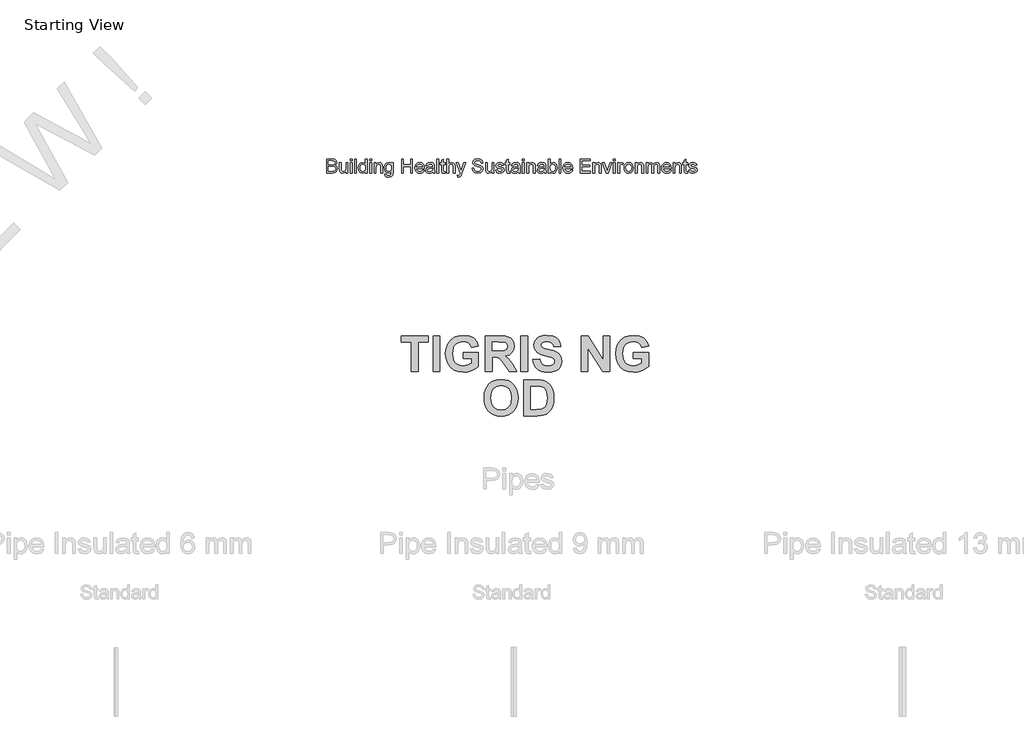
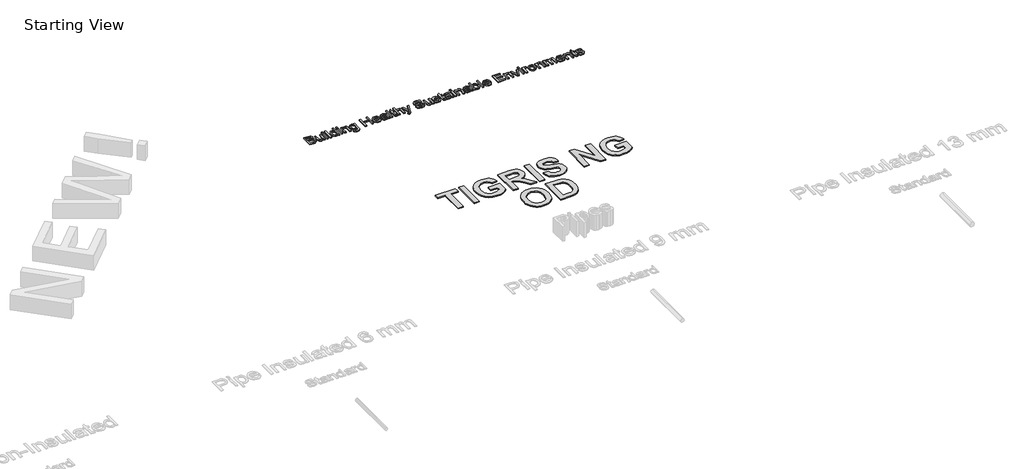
# One storey, part 3 of 3: 2 proxies.
"""IFC4 building model written with IfcOpenShell, lengths in millimetres."""

from ifc_helpers import new_model, si_unit, origin, origin_with_axes, place, context, project, spatial, polyline, outline, extrude, element, save

model = new_model("IFC4")

# Units and contexts
model_context = context("Model", 3, world=origin())
ifc_project = project(units=[si_unit("LENGTHUNIT", "METRE", prefix="MILLI")], contexts=[model_context])

# Site, building, storey
site = spatial("IfcSite", under=ifc_project)
building = spatial("IfcBuilding", under=site)
storey = spatial("IfcBuildingStorey", under=building, Name="Starting View", Elevation=0.0)

# Proxies
placement = place(None, origin())
element("IfcBuildingElementProxy", 1, Name="Arial 100", ObjectType="Arial 100", at=placement, inside=storey, context=model_context, shape_type="SweptSolid", body=[
    extrude(outline(polyline([(18641.6273877, 13515.8670476), (18641.6273877, 13616.3233577), (18679.9606916, 13616.3233577), (18698.7349361, 13613.368039), (18709.8204469, 13604.2813537), (18713.8303606, 13591.4300094), (18710.458109, 13579.6945737), (18700.2677777, 13570.8040922), (18712.6408755, 13561.435364), (18716.9696203, 13545.812642), (18714.0143016, 13532.3113728), (18706.6934499, 13522.6973899), (18695.7673546, 13517.596093), (18679.666386, 13515.8670476), (18641.6273877, 13515.8670476)]), holes=[polyline([(18654.1844264, 13528.4240863), (18679.9361661, 13528.4240863), (18689.2558433, 13528.9145957), (18697.1407808, 13531.6491852), (18702.3647051, 13537.2287288), (18704.4125815, 13545.6900146), (18702.0090858, 13555.4511503), (18694.2222503, 13561.2759485), (18678.7098928, 13562.955943), (18654.1844264, 13562.955943), (18654.1844264, 13528.4240863)]), polyline([(18654.1844264, 13575.5129817), (18677.1157375, 13575.5129817), (18690.5066421, 13576.5921022), (18698.5632578, 13581.2396781), (18701.2733218, 13589.4189211), (18698.7471988, 13597.6104269), (18691.5121862, 13602.4542065), (18675.3744294, 13603.766319), (18654.1844264, 13603.766319), (18654.1844264, 13575.5129817)])]), origin_with_axes(), (0.0, 0.0, 1.0), 10.0),
    extrude(outline(polyline([(18779.7548141, 13515.8670476), (18779.7548141, 13528.5467137), (18769.9201021, 13517.8597417), (18757.0932832, 13514.2974177), (18745.2842712, 13516.7990153), (18737.1418164, 13523.0775347), (18733.4016827, 13532.3236355), (18732.6659188, 13543.9977575), (18732.6659188, 13589.6396503), (18745.2229575, 13589.6396503), (18745.2229575, 13549.9083949), (18745.983247, 13537.1061014), (18750.9496539, 13529.589046), (18760.3061193, 13526.8544565), (18770.7907562, 13529.6503597), (18777.7192004, 13537.265517), (18779.7548141, 13551.2572955), (18779.7548141, 13589.6396503), (18792.3118529, 13589.6396503), (18792.3118529, 13515.8670476), (18779.7548141, 13515.8670476)])), origin_with_axes(), (0.0, 0.0, 1.0), 10.0),
    extrude(outline(polyline([(18809.5777812, 13603.766319), (18809.5777812, 13616.3233577), (18822.13482, 13616.3233577), (18822.13482, 13603.766319), (18809.5777812, 13603.766319)])), origin_with_axes(), (0.0, 0.0, 1.0), 10.0),
    extrude(outline(polyline([(18809.5777812, 13515.8670476), (18809.5777812, 13589.6396503), (18822.13482, 13589.6396503), (18822.13482, 13515.8670476), (18809.5777812, 13515.8670476)])), origin_with_axes(), (0.0, 0.0, 1.0), 10.0),
    extrude(outline(polyline([(18840.9703781, 13515.8670476), (18840.9703781, 13616.3233577), (18853.5274169, 13616.3233577), (18853.5274169, 13515.8670476), (18840.9703781, 13515.8670476)])), origin_with_axes(), (0.0, 0.0, 1.0), 10.0),
    extrude(outline(polyline([(18917.8822406, 13515.8670476), (18917.8822406, 13527.7128478), (18909.5742389, 13517.6512752), (18898.0901893, 13514.2974177), (18882.5410436, 13519.1534601), (18871.5536347, 13532.7037802), (18867.6540855, 13552.6797726), (18871.2470663, 13572.6680276), (18882.0137461, 13586.4268142), (18898.0411383, 13591.2092802), (18909.6171584, 13587.7879776), (18917.8822406, 13578.8974961), (18917.8822406, 13616.3233577), (18930.4392794, 13616.3233577), (18930.4392794, 13515.8670476), (18917.8822406, 13515.8670476)]), holes=[polyline([(18880.2111243, 13552.7288235), (18881.62747, 13541.3704669), (18885.876507, 13533.2923914), (18892.0507932, 13528.4639402), (18899.2428862, 13526.8544565), (18906.4319135, 13528.3903638), (18912.4498498, 13532.9980858), (18916.5241429, 13540.7634616), (18917.8822406, 13551.7723303), (18916.4996174, 13563.8082029), (18912.3517479, 13572.1529928), (18906.1805275, 13577.0274293), (18898.7278514, 13578.6522414), (18891.462182, 13577.0918086), (18885.508625, 13572.4105102), (18881.5354995, 13564.369223), (18880.2111243, 13552.7288235)])]), origin_with_axes(), (0.0, 0.0, 1.0), 10.0),
    extrude(outline(polyline([(18949.2748375, 13603.766319), (18949.2748375, 13616.3233577), (18961.8318763, 13616.3233577), (18961.8318763, 13603.766319), (18949.2748375, 13603.766319)])), origin_with_axes(), (0.0, 0.0, 1.0), 10.0),
    extrude(outline(polyline([(18949.2748375, 13515.8670476), (18949.2748375, 13589.6396503), (18961.8318763, 13589.6396503), (18961.8318763, 13515.8670476), (18949.2748375, 13515.8670476)])), origin_with_axes(), (0.0, 0.0, 1.0), 10.0),
    extrude(outline(polyline([(18980.6674344, 13515.8670476), (18980.6674344, 13589.6396503), (18993.2244732, 13589.6396503), (18993.2244732, 13579.3389545), (19002.8261933, 13588.2416988), (19015.935055, 13591.2092802), (19027.793118, 13588.8180472), (19035.8865219, 13582.5395278), (19039.651181, 13573.3056898), (19040.3133686, 13561.1655839), (19040.3133686, 13515.8670476), (19027.7563298, 13515.8670476), (19027.7563298, 13559.4733267), (19026.3093273, 13570.583363), (19021.1957676, 13576.4572122), (19012.5750661, 13578.6522414), (18998.9511696, 13573.7226227), (18994.6561473, 13566.5795806), (18993.2244732, 13555.0096919), (18993.2244732, 13515.8670476), (18980.6674344, 13515.8670476)])), origin_with_axes(), (0.0, 0.0, 1.0), 10.0),
    extrude(outline(polyline([(19054.4400372, 13509.5885282), (19066.997076, 13508.0188983), (19071.0683034, 13501.3970224), (19083.2574602, 13498.6011193), (19096.1088045, 13501.7649044), (19102.2401711, 13510.6431232), (19103.0985624, 13525.2848266), (19094.2571318, 13518.2214923), (19083.4781894, 13515.8670476), (19070.5318088, 13518.6077684), (19060.8779721, 13526.829931), (19054.8722985, 13538.8841977), (19052.8704074, 13553.121231), (19056.4633882, 13572.5821885), (19066.8621859, 13586.3532378), (19082.8650527, 13591.2092802), (19094.0670594, 13588.462428), (19103.0985624, 13580.2218713), (19103.0985624, 13589.6396503), (19115.6556012, 13589.6396503), (19115.6556012, 13525.9470142), (19112.2220359, 13501.556438), (19101.3449916, 13490.2134098), (19083.0122055, 13486.0440805), (19071.3288865, 13487.5125428), (19062.1287709, 13491.9179297), (19056.2273306, 13499.2725039), (19054.4400372, 13509.5885282)]), holes=[polyline([(19065.4274461, 13553.9796223), (19066.7671497, 13542.4618501), (19070.7862605, 13534.5431902), (19076.8287223, 13529.9538623), (19084.2384788, 13528.4240863), (19091.593053, 13529.9446653), (19097.6661716, 13534.506402), (19101.7404647, 13542.3238944), (19103.0985624, 13553.6117403), (19101.7006108, 13564.4979817), (19097.5067561, 13572.3369338), (19091.3447327, 13577.0734145), (19084.0422751, 13578.6522414), (19076.8716419, 13577.09794), (19070.8598369, 13572.4350357), (19066.7855438, 13564.7125795), (19065.4274461, 13553.9796223)])]), origin_with_axes(), (0.0, 0.0, 1.0), 10.0),
    extrude(outline(polyline([(19175.3015353, 13515.8670476), (19175.3015353, 13616.3233577), (19187.8585741, 13616.3233577), (19187.8585741, 13575.5129817), (19241.2259889, 13575.5129817), (19241.2259889, 13616.3233577), (19253.7830277, 13616.3233577), (19253.7830277, 13515.8670476), (19241.2259889, 13515.8670476), (19241.2259889, 13562.955943), (19187.8585741, 13562.955943), (19187.8585741, 13515.8670476), (19175.3015353, 13515.8670476)])), origin_with_axes(), (0.0, 0.0, 1.0), 10.0),
    extrude(outline(polyline([(19325.8388478, 13537.8418654), (19338.1506319, 13536.2722356), (19333.7145882, 13526.9954779), (19326.6359254, 13520.0609023), (19317.0740592, 13515.7382889), (19305.1884051, 13514.2974177), (19290.4547312, 13516.7836869), (19279.1178344, 13524.2424943), (19271.8889532, 13536.1894621), (19269.4793261, 13552.1402123), (19271.9134786, 13568.627457), (19279.2159363, 13580.9576353), (19290.3995489, 13588.646369), (19304.4771666, 13591.2092802), (19318.1163916, 13588.6525003), (19329.0148957, 13580.9821607), (19336.1610034, 13568.676508), (19338.5430393, 13552.2137887), (19338.4694629, 13548.8292743), (19282.0363649, 13548.8292743), (19284.2099343, 13539.4298894), (19289.2591147, 13532.5198392), (19296.5462439, 13528.2708022), (19305.4336598, 13526.8544565), (19317.7454439, 13529.4786814), (19325.8388478, 13537.8418654)]), holes=[polyline([(19282.0363649, 13561.3863131), (19325.9860006, 13561.3863131), (19320.95828, 13572.7661295), (19313.6374283, 13577.1807134), (19304.4281157, 13578.6522414), (19288.9648091, 13573.9556146), (19284.0995697, 13568.4649758), (19282.0363649, 13561.3863131)])]), origin_with_axes(), (0.0, 0.0, 1.0), 10.0),
    extrude(outline(polyline([(19398.1889735, 13525.2848266), (19386.0120795, 13516.7744898), (19372.5598612, 13514.2974177), (19362.0660273, 13515.7873398), (19354.3251769, 13520.257106), (19349.551908, 13527.0445289), (19347.9608184, 13535.4874206), (19350.3643141, 13545.4202345), (19356.6796217, 13552.6307216), (19365.4720014, 13556.751), (19376.336783, 13558.6394609), (19398.1153971, 13562.955943), (19398.1889735, 13565.7518461), (19394.7308827, 13575.0224724), (19380.8494688, 13578.6522414), (19368.1452772, 13576.236483), (19362.087487, 13567.6648325), (19349.5304483, 13569.2344623), (19354.9628391, 13581.4971955), (19365.9011971, 13588.6831572), (19382.4681496, 13591.2092802), (19397.6862014, 13588.9774627), (19406.2823774, 13583.3733937), (19410.1328756, 13574.8507941), (19410.7460123, 13563.8633852), (19410.7460123, 13548.2406631), (19411.3836744, 13526.4252608), (19413.885272, 13515.8670476), (19401.3282332, 13515.8670476), (19398.1889735, 13525.2848266)]), holes=[polyline([(19398.1889735, 13550.3989042), (19377.9309383, 13546.548406), (19367.1274704, 13544.5127923), (19362.2346398, 13541.2018543), (19360.5178572, 13536.3703374), (19364.2579908, 13529.5767833), (19375.233137, 13526.8544565), (19387.9373286, 13529.8588261), (19396.1288343, 13537.1306269), (19398.1153971, 13546.8427116), (19398.1889735, 13550.3989042)])]), origin_with_axes(), (0.0, 0.0, 1.0), 10.0),
    extrude(outline(polyline([(19428.0119406, 13515.8670476), (19428.0119406, 13616.3233577), (19440.5689793, 13616.3233577), (19440.5689793, 13515.8670476), (19428.0119406, 13515.8670476)])), origin_with_axes(), (0.0, 0.0, 1.0), 10.0),
    extrude(outline(polyline([(19486.0882449, 13526.3394217), (19487.6578747, 13515.4991656), (19478.2646211, 13514.2974177), (19467.743196, 13516.3820824), (19462.4947463, 13521.8512614), (19460.9741673, 13536.1005573), (19460.9741673, 13577.0826116), (19451.5563883, 13577.0826116), (19451.5563883, 13589.6396503), (19460.9741673, 13589.6396503), (19460.9741673, 13607.5677662), (19473.5312061, 13614.9499316), (19473.5312061, 13589.6396503), (19486.0882449, 13589.6396503), (19486.0882449, 13577.0826116), (19473.5312061, 13577.0826116), (19473.5312061, 13536.4684393), (19474.1933937, 13529.9937162), (19476.339372, 13527.7005851), (19480.6190659, 13526.8544565), (19486.0882449, 13526.3394217)])), origin_with_axes(), (0.0, 0.0, 1.0), 10.0),
    extrude(outline(polyline([(19498.6452836, 13515.8670476), (19498.6452836, 13616.3233577), (19511.2023224, 13616.3233577), (19511.2023224, 13579.3880054), (19520.9941149, 13588.2539615), (19533.0545129, 13591.2092802), (19547.1566561, 13587.9841814), (19555.7160438, 13579.0691743), (19558.2912178, 13562.5635355), (19558.2912178, 13515.8670476), (19545.734179, 13515.8670476), (19545.734179, 13561.2636858), (19541.736528, 13574.5074376), (19530.4057626, 13578.6522414), (19520.1173294, 13575.8563383), (19513.2501989, 13568.2779692), (19511.2023224, 13555.0587428), (19511.2023224, 13515.8670476), (19498.6452836, 13515.8670476)])), origin_with_axes(), (0.0, 0.0, 1.0), 10.0),
    extrude(outline(polyline([(19575.5571461, 13487.6137103), (19573.9875163, 13499.7047653), (19580.3641375, 13498.6011193), (19586.3238258, 13499.9868081), (19589.9781203, 13503.8495691), (19593.4116856, 13513.0956699), (19594.3927043, 13516.1368277), (19567.7089969, 13589.6396503), (19580.9527487, 13589.6396503), (19595.1039428, 13548.6821215), (19600.0335615, 13532.29911), (19604.9631802, 13546.7691352), (19619.5067818, 13589.6396503), (19632.6524318, 13589.6396503), (19606.9742685, 13514.101214), (19600.3033416, 13497.7182025), (19593.0192781, 13488.8645091), (19583.2336171, 13486.0440805), (19575.5571461, 13487.6137103)])), origin_with_axes(), (0.0, 0.0, 1.0), 10.0),
    extrude(outline(polyline([(19679.1527159, 13550.3989042), (19691.7097547, 13550.3989042), (19695.7564567, 13537.8296027), (19705.6402196, 13529.8833516), (19720.6988559, 13526.8544565), (19733.8199804, 13529.1475876), (19742.293529, 13535.4506324), (19745.0771695, 13543.8751301), (19742.9925048, 13551.7110166), (19734.4576426, 13557.4131876), (19716.1739074, 13562.2079162), (19696.4922206, 13568.4005965), (19685.8113801, 13577.7447992), (19682.2919756, 13590.2282615), (19686.6452459, 13604.4407693), (19699.3617002, 13614.471685), (19717.9765292, 13617.8929876), (19737.8421569, 13614.3122695), (19751.0859087, 13603.7908444), (19756.0645784, 13588.0700205), (19743.5075396, 13588.0700205), (19741.2021458, 13595.5625505), (19736.3951544, 13600.9704158), (19718.4670385, 13605.3359488), (19700.4898717, 13601.0194667), (19694.8490144, 13590.5961435), (19698.8466654, 13581.889603), (19719.3499553, 13574.8753196), (19741.5700278, 13568.5722747), (19753.7223964, 13558.3942062), (19757.6342082, 13544.1939612), (19753.1337852, 13529.1721131), (19740.1843389, 13518.2092296), (19721.1893653, 13514.2974177), (19698.7608263, 13518.5157979), (19684.572844, 13531.2199895), (19679.1527159, 13550.3989042)])), origin_with_axes(), (0.0, 0.0, 1.0), 10.0),
    extrude(outline(polyline([(19821.9890319, 13515.8670476), (19821.9890319, 13528.5467137), (19812.1543199, 13517.8597417), (19799.327501, 13514.2974177), (19787.518489, 13516.7990153), (19779.3760342, 13523.0775347), (19775.6359005, 13532.3236355), (19774.9001366, 13543.9977575), (19774.9001366, 13589.6396503), (19787.4571753, 13589.6396503), (19787.4571753, 13549.9083949), (19788.2174648, 13537.1061014), (19793.1838717, 13529.589046), (19802.5403371, 13526.8544565), (19813.024974, 13529.6503597), (19819.9534182, 13537.265517), (19821.9890319, 13551.2572955), (19821.9890319, 13589.6396503), (19834.5460707, 13589.6396503), (19834.5460707, 13515.8670476), (19821.9890319, 13515.8670476)])), origin_with_axes(), (0.0, 0.0, 1.0), 10.0),
    extrude(outline(polyline([(19847.1031095, 13537.8418654), (19859.6601482, 13539.4114953), (19865.4726838, 13530.0918181), (19878.790012, 13526.8544565), (19891.5923054, 13529.8220379), (19895.7616347, 13536.7872704), (19891.56778, 13542.4281276), (19878.6428592, 13546.0088457), (19859.7337246, 13552.152475), (19851.4809052, 13559.3261739), (19848.6727393, 13569.4551915), (19850.9290822, 13578.8116569), (19857.0849743, 13585.9608304), (19865.0680136, 13589.6764385), (19875.8714815, 13591.2092802), (19891.150847, 13588.7444708), (19900.8629317, 13582.073544), (19905.1794138, 13570.8040922), (19892.622375, 13569.2344623), (19887.9012227, 13576.1629066), (19876.8525002, 13578.6522414), (19864.8350216, 13576.2732712), (19861.2297781, 13570.7305158), (19862.7258315, 13567.0762213), (19867.4101956, 13564.3048436), (19878.2259263, 13561.6315678), (19896.6568142, 13555.7209304), (19905.216202, 13549.0254781), (19908.3186735, 13538.1116455), (19904.6766417, 13526.094167), (19894.1674794, 13517.3753638), (19878.6183337, 13514.2974177), (19865.9570617, 13515.7812084), (19856.7170923, 13520.2325806), (19850.5489375, 13527.6024832), (19847.1031095, 13537.8418654)])), origin_with_axes(), (0.0, 0.0, 1.0), 10.0),
    extrude(outline(polyline([(19949.1290495, 13526.3394217), (19950.6986793, 13515.4991656), (19941.3054257, 13514.2974177), (19930.7840006, 13516.3820824), (19925.5355508, 13521.8512614), (19924.0149719, 13536.1005573), (19924.0149719, 13577.0826116), (19914.5971929, 13577.0826116), (19914.5971929, 13589.6396503), (19924.0149719, 13589.6396503), (19924.0149719, 13607.5677662), (19936.5720107, 13614.9499316), (19936.5720107, 13589.6396503), (19949.1290495, 13589.6396503), (19949.1290495, 13577.0826116), (19936.5720107, 13577.0826116), (19936.5720107, 13536.4684393), (19937.2341983, 13529.9937162), (19939.3801766, 13527.7005851), (19943.6598705, 13526.8544565), (19949.1290495, 13526.3394217)])), origin_with_axes(), (0.0, 0.0, 1.0), 10.0),
    extrude(outline(polyline([(20008.7749836, 13525.2848266), (19996.5980896, 13516.7744898), (19983.1458713, 13514.2974177), (19972.6520374, 13515.7873398), (19964.9111871, 13520.257106), (19960.1379182, 13527.0445289), (19958.5468285, 13535.4874206), (19960.9503242, 13545.4202345), (19967.2656318, 13552.6307216), (19976.0580115, 13556.751), (19986.9227931, 13558.6394609), (20008.7014072, 13562.955943), (20008.7749836, 13565.7518461), (20005.3168929, 13575.0224724), (19991.4354789, 13578.6522414), (19978.7312873, 13576.236483), (19972.6734972, 13567.6648325), (19960.1164584, 13569.2344623), (19965.5488492, 13581.4971955), (19976.4872072, 13588.6831572), (19993.0541597, 13591.2092802), (20008.2722116, 13588.9774627), (20016.8683875, 13583.3733937), (20020.7188857, 13574.8507941), (20021.3320224, 13563.8633852), (20021.3320224, 13548.2406631), (20021.9696845, 13526.4252608), (20024.4712821, 13515.8670476), (20011.9142433, 13515.8670476), (20008.7749836, 13525.2848266)]), holes=[polyline([(20008.7749836, 13550.3989042), (19988.5169484, 13546.548406), (19977.7134805, 13544.5127923), (19972.82065, 13541.2018543), (19971.1038673, 13536.3703374), (19974.8440009, 13529.5767833), (19985.8191471, 13526.8544565), (19998.5233387, 13529.8588261), (20006.7148444, 13537.1306269), (20008.7014072, 13546.8427116), (20008.7749836, 13550.3989042)])]), origin_with_axes(), (0.0, 0.0, 1.0), 10.0),
    extrude(outline(polyline([(20038.5979507, 13515.8670476), (20038.5979507, 13589.6396503), (20051.1549895, 13589.6396503), (20051.1549895, 13515.8670476), (20038.5979507, 13515.8670476)])), origin_with_axes(), (0.0, 0.0, 1.0), 10.0),
    extrude(outline(polyline([(20038.5979507, 13603.766319), (20038.5979507, 13616.3233577), (20051.1549895, 13616.3233577), (20051.1549895, 13603.766319), (20038.5979507, 13603.766319)])), origin_with_axes(), (0.0, 0.0, 1.0), 10.0),
    extrude(outline(polyline([(20069.9905476, 13515.8670476), (20069.9905476, 13589.6396503), (20082.5475864, 13589.6396503), (20082.5475864, 13579.3389545), (20092.1493065, 13588.2416988), (20105.2581682, 13591.2092802), (20117.1162312, 13588.8180472), (20125.2096351, 13582.5395278), (20128.9742942, 13573.3056898), (20129.6364818, 13561.1655839), (20129.6364818, 13515.8670476), (20117.079443, 13515.8670476), (20117.079443, 13559.4733267), (20115.6324405, 13570.583363), (20110.5188808, 13576.4572122), (20101.8981793, 13578.6522414), (20088.2742828, 13573.7226227), (20083.9792605, 13566.5795806), (20082.5475864, 13555.0096919), (20082.5475864, 13515.8670476), (20069.9905476, 13515.8670476)])), origin_with_axes(), (0.0, 0.0, 1.0), 10.0),
    extrude(outline(polyline([(20193.9913055, 13525.2848266), (20181.8144114, 13516.7744898), (20168.3621931, 13514.2974177), (20157.8683592, 13515.7873398), (20150.1275089, 13520.257106), (20145.35424, 13527.0445289), (20143.7631504, 13535.4874206), (20146.1666461, 13545.4202345), (20152.4819537, 13552.6307216), (20161.2743334, 13556.751), (20172.1391149, 13558.6394609), (20193.9177291, 13562.955943), (20193.9913055, 13565.7518461), (20190.5332147, 13575.0224724), (20176.6518008, 13578.6522414), (20163.9476092, 13576.236483), (20157.889819, 13567.6648325), (20145.3327802, 13569.2344623), (20150.765171, 13581.4971955), (20161.703529, 13588.6831572), (20178.2704815, 13591.2092802), (20193.4885334, 13588.9774627), (20202.0847094, 13583.3733937), (20205.9352076, 13574.8507941), (20206.5483442, 13563.8633852), (20206.5483442, 13548.2406631), (20207.1860064, 13526.4252608), (20209.6876039, 13515.8670476), (20197.1305652, 13515.8670476), (20193.9913055, 13525.2848266)]), holes=[polyline([(20193.9913055, 13550.3989042), (20173.7332703, 13546.548406), (20162.9298023, 13544.5127923), (20158.0369718, 13541.2018543), (20156.3201892, 13536.3703374), (20160.0603228, 13529.5767833), (20171.035469, 13526.8544565), (20183.7396605, 13529.8588261), (20191.9311663, 13537.1306269), (20193.9177291, 13546.8427116), (20193.9913055, 13550.3989042)])]), origin_with_axes(), (0.0, 0.0, 1.0), 10.0),
    extrude(outline(polyline([(20236.3713113, 13515.8670476), (20223.8142725, 13515.8670476), (20223.8142725, 13616.3233577), (20236.3713113, 13616.3233577), (20236.3713113, 13579.0691743), (20245.163691, 13588.1742537), (20256.0897862, 13591.2092802), (20268.6713505, 13588.4746907), (20278.4324861, 13580.785957), (20284.4289626, 13568.8297921), (20286.5994664, 13553.8569949), (20284.3523205, 13537.0938387), (20277.610883, 13524.6226391), (20267.717923, 13516.8787231), (20256.0162098, 13514.2974177), (20244.8509913, 13517.6267498), (20236.3713113, 13527.614746), (20236.3713113, 13515.8670476)]), holes=[polyline([(20236.3713113, 13553.2683837), (20239.8048766, 13535.7081498), (20246.3838329, 13529.0678798), (20254.9370893, 13526.8544565), (20262.1843646, 13528.4854), (20268.3770449, 13533.3782305), (20272.6260819, 13541.5022913), (20274.0424276, 13552.8269254), (20272.6843299, 13564.3171063), (20268.6100368, 13572.3491966), (20262.6104946, 13577.0764802), (20255.4766496, 13578.6522414), (20248.2293743, 13577.0212979), (20242.036694, 13572.1284674), (20237.787657, 13564.1515594), (20236.3713113, 13553.2683837)])]), origin_with_axes(), (0.0, 0.0, 1.0), 10.0),
    extrude(outline(polyline([(20300.726135, 13515.8670476), (20300.726135, 13616.3233577), (20313.2831738, 13616.3233577), (20313.2831738, 13515.8670476), (20300.726135, 13515.8670476)])), origin_with_axes(), (0.0, 0.0, 1.0), 10.0),
    extrude(outline(polyline([(20383.769364, 13537.8418654), (20396.0811481, 13536.2722356), (20391.6451044, 13526.9954779), (20384.5664417, 13520.0609023), (20375.0045755, 13515.7382889), (20363.1189214, 13514.2974177), (20348.3852475, 13516.7836869), (20337.0483507, 13524.2424943), (20329.8194694, 13536.1894621), (20327.4098424, 13552.1402123), (20329.8439949, 13568.627457), (20337.1464525, 13580.9576353), (20348.3300652, 13588.646369), (20362.4076829, 13591.2092802), (20376.0469078, 13588.6525003), (20386.9454119, 13580.9821607), (20394.0915197, 13568.676508), (20396.4735556, 13552.2137887), (20396.3999792, 13548.8292743), (20339.9668811, 13548.8292743), (20342.1404506, 13539.4298894), (20347.189631, 13532.5198392), (20354.4767602, 13528.2708022), (20363.364176, 13526.8544565), (20375.6759601, 13529.4786814), (20383.769364, 13537.8418654)]), holes=[polyline([(20339.9668811, 13561.3863131), (20383.9165168, 13561.3863131), (20378.8887962, 13572.7661295), (20371.5679445, 13577.1807134), (20362.3586319, 13578.6522414), (20346.8953254, 13573.9556146), (20342.030086, 13568.4649758), (20339.9668811, 13561.3863131)])]), origin_with_axes(), (0.0, 0.0, 1.0), 10.0),
    extrude(outline(polyline([(20449.8409704, 13515.8670476), (20449.8409704, 13616.3233577), (20522.0439433, 13616.3233577), (20522.0439433, 13603.766319), (20462.3980091, 13603.766319), (20462.3980091, 13573.9433519), (20518.9046836, 13573.9433519), (20518.9046836, 13561.3863131), (20462.3980091, 13561.3863131), (20462.3980091, 13528.4240863), (20523.6135731, 13528.4240863), (20523.6135731, 13515.8670476), (20449.8409704, 13515.8670476)])), origin_with_axes(), (0.0, 0.0, 1.0), 10.0),
    extrude(outline(polyline([(20540.8795014, 13515.8670476), (20540.8795014, 13589.6396503), (20553.4365402, 13589.6396503), (20553.4365402, 13579.3389545), (20563.0382603, 13588.2416988), (20576.147122, 13591.2092802), (20588.005185, 13588.8180472), (20596.0985889, 13582.5395278), (20599.863248, 13573.3056898), (20600.5254356, 13561.1655839), (20600.5254356, 13515.8670476), (20587.9683968, 13515.8670476), (20587.9683968, 13559.4733267), (20586.5213943, 13570.583363), (20581.4078346, 13576.4572122), (20572.7871332, 13578.6522414), (20559.1632366, 13573.7226227), (20554.8682143, 13566.5795806), (20553.4365402, 13555.0096919), (20553.4365402, 13515.8670476), (20540.8795014, 13515.8670476)])), origin_with_axes(), (0.0, 0.0, 1.0), 10.0),
    extrude(outline(polyline([(20635.8911581, 13515.8670476), (20609.9432147, 13589.6396503), (20623.2360174, 13589.6396503), (20638.9568414, 13545.44476), (20643.6902564, 13530.5823274), (20648.3255695, 13544.6108941), (20664.1444953, 13589.6396503), (20677.4372981, 13589.6396503), (20651.8081857, 13515.8670476), (20635.8911581, 13515.8670476)])), origin_with_axes(), (0.0, 0.0, 1.0), 10.0),
    extrude(outline(polyline([(20688.424707, 13515.8670476), (20688.424707, 13589.6396503), (20700.9817457, 13589.6396503), (20700.9817457, 13515.8670476), (20688.424707, 13515.8670476)])), origin_with_axes(), (0.0, 0.0, 1.0), 10.0),
    extrude(outline(polyline([(20688.424707, 13603.766319), (20688.424707, 13616.3233577), (20700.9817457, 13616.3233577), (20700.9817457, 13603.766319), (20688.424707, 13603.766319)])), origin_with_axes(), (0.0, 0.0, 1.0), 10.0),
    extrude(outline(polyline([(20719.8173039, 13515.8670476), (20719.8173039, 13589.6396503), (20730.8047128, 13589.6396503), (20730.8047128, 13578.7258178), (20738.6038111, 13588.781259), (20746.4519604, 13591.2092802), (20759.0580501, 13587.3342565), (20754.8641953, 13576.0770675), (20746.0350274, 13578.6522414), (20738.9349049, 13576.1751693), (20734.4099564, 13569.3080387), (20732.3743427, 13554.6418099), (20732.3743427, 13515.8670476), (20719.8173039, 13515.8670476)])), origin_with_axes(), (0.0, 0.0, 1.0), 10.0),
    extrude(outline(polyline([(20763.7669396, 13552.753349), (20766.483135, 13570.5404434), (20774.6317212, 13583.0422999), (20784.6994251, 13589.1675351), (20796.7536918, 13591.2092802), (20809.945327, 13588.723011), (20820.4820805, 13581.2642036), (20827.389065, 13569.421469), (20829.6913931, 13553.7834185), (20825.6201657, 13531.4407187), (20813.7621027, 13518.7978408), (20796.7536918, 13514.2974177), (20783.4026411, 13516.7744898), (20772.8781503, 13524.2057061), (20766.0447423, 13536.296761), (20763.7669396, 13552.753349)]), holes=[polyline([(20776.3239784, 13552.7778744), (20777.7771122, 13541.4133865), (20782.1365139, 13533.3169169), (20788.6970761, 13528.4700716), (20796.7536918, 13526.8544565), (20804.7735193, 13528.4792686), (20811.3218188, 13533.3537051), (20815.6812205, 13541.5574736), (20817.1343544, 13553.1702819), (20815.6720234, 13564.2036761), (20811.2850306, 13572.189781), (20804.7275341, 13577.0366263), (20796.7536918, 13578.6522414), (20788.6970761, 13577.0427577), (20782.1365139, 13572.2143065), (20777.7771122, 13564.136231), (20776.3239784, 13552.7778744)])]), origin_with_axes(), (0.0, 0.0, 1.0), 10.0),
    extrude(outline(polyline([(20843.8180617, 13515.8670476), (20843.8180617, 13589.6396503), (20856.3751005, 13589.6396503), (20856.3751005, 13579.3389545), (20865.9768206, 13588.2416988), (20879.0856823, 13591.2092802), (20890.9437453, 13588.8180472), (20899.0371492, 13582.5395278), (20902.8018083, 13573.3056898), (20903.4639959, 13561.1655839), (20903.4639959, 13515.8670476), (20890.9069571, 13515.8670476), (20890.9069571, 13559.4733267), (20889.4599546, 13570.583363), (20884.3463949, 13576.4572122), (20875.7256935, 13578.6522414), (20862.1017969, 13573.7226227), (20857.8067746, 13566.5795806), (20856.3751005, 13555.0096919), (20856.3751005, 13515.8670476), (20843.8180617, 13515.8670476)])), origin_with_axes(), (0.0, 0.0, 1.0), 10.0),
    extrude(outline(polyline([(20920.7299242, 13515.8670476), (20920.7299242, 13589.6396503), (20933.286963, 13589.6396503), (20933.286963, 13577.4995445), (20941.9199271, 13587.4446211), (20954.2071858, 13591.2092802), (20966.78875, 13587.3710447), (20973.7049315, 13576.6166277), (20983.5028553, 13587.5611171), (20995.8759531, 13591.2092802), (21005.3151919, 13589.691767), (21012.2957528, 13585.1392273), (21016.6091692, 13577.4290338), (21018.0469747, 13566.4385592), (21018.0469747, 13515.8670476), (21005.4899359, 13515.8670476), (21005.4899359, 13561.0429566), (21004.3249762, 13571.5275934), (21000.106596, 13576.6902041), (20992.9328971, 13578.6522414), (20980.5843248, 13573.6245208), (20976.8963078, 13567.0823527), (20975.6669688, 13557.5112894), (20975.6669688, 13515.8670476), (20963.10993, 13515.8670476), (20963.10993, 13562.4409082), (20960.2036623, 13574.6055395), (20950.6755186, 13578.6522414), (20941.3803669, 13575.9544401), (20935.1999493, 13568.05724), (20933.286963, 13553.07218), (20933.286963, 13515.8670476), (20920.7299242, 13515.8670476)])), origin_with_axes(), (0.0, 0.0, 1.0), 10.0),
    extrude(outline(polyline([(21088.5331649, 13537.8418654), (21100.844949, 13536.2722356), (21096.4089053, 13526.9954779), (21089.3302426, 13520.0609023), (21079.7683764, 13515.7382889), (21067.8827223, 13514.2974177), (21053.1490484, 13516.7836869), (21041.8121515, 13524.2424943), (21034.5832703, 13536.1894621), (21032.1736433, 13552.1402123), (21034.6077958, 13568.627457), (21041.9102534, 13580.9576353), (21053.0938661, 13588.646369), (21067.1714837, 13591.2092802), (21080.8107087, 13588.6525003), (21091.7092128, 13580.9821607), (21098.8553206, 13568.676508), (21101.2373565, 13552.2137887), (21101.1637801, 13548.8292743), (21044.730682, 13548.8292743), (21046.9042515, 13539.4298894), (21051.9534319, 13532.5198392), (21059.2405611, 13528.2708022), (21068.1279769, 13526.8544565), (21080.439761, 13529.4786814), (21088.5331649, 13537.8418654)]), holes=[polyline([(21044.730682, 13561.3863131), (21088.6803177, 13561.3863131), (21083.6525971, 13572.7661295), (21076.3317454, 13577.1807134), (21067.1224328, 13578.6522414), (21051.6591263, 13573.9556146), (21046.7938869, 13568.4649758), (21044.730682, 13561.3863131)])]), origin_with_axes(), (0.0, 0.0, 1.0), 10.0),
    extrude(outline(polyline([(21113.7943953, 13515.8670476), (21113.7943953, 13589.6396503), (21126.351434, 13589.6396503), (21126.351434, 13579.3389545), (21135.9531541, 13588.2416988), (21149.0620159, 13591.2092802), (21160.9200788, 13588.8180472), (21169.0134827, 13582.5395278), (21172.7781418, 13573.3056898), (21173.4403294, 13561.1655839), (21173.4403294, 13515.8670476), (21160.8832906, 13515.8670476), (21160.8832906, 13559.4733267), (21159.4362881, 13570.583363), (21154.3227284, 13576.4572122), (21145.702027, 13578.6522414), (21132.0781304, 13573.7226227), (21127.7831081, 13566.5795806), (21126.351434, 13555.0096919), (21126.351434, 13515.8670476), (21113.7943953, 13515.8670476)])), origin_with_axes(), (0.0, 0.0, 1.0), 10.0),
    extrude(outline(polyline([(21217.3899651, 13526.3394217), (21218.959595, 13515.4991656), (21209.5663413, 13514.2974177), (21199.0449163, 13516.3820824), (21193.7964665, 13521.8512614), (21192.2758876, 13536.1005573), (21192.2758876, 13577.0826116), (21182.8581085, 13577.0826116), (21182.8581085, 13589.6396503), (21192.2758876, 13589.6396503), (21192.2758876, 13607.5677662), (21204.8329263, 13614.9499316), (21204.8329263, 13589.6396503), (21217.3899651, 13589.6396503), (21217.3899651, 13577.0826116), (21204.8329263, 13577.0826116), (21204.8329263, 13536.4684393), (21205.4951139, 13529.9937162), (21207.6410922, 13527.7005851), (21211.9207861, 13526.8544565), (21217.3899651, 13526.3394217)])), origin_with_axes(), (0.0, 0.0, 1.0), 10.0),
    extrude(outline(polyline([(21225.2381143, 13537.8418654), (21237.7951531, 13539.4114953), (21243.6076886, 13530.0918181), (21256.9250169, 13526.8544565), (21269.7273103, 13529.8220379), (21273.8966396, 13536.7872704), (21269.7027848, 13542.4281276), (21256.7778641, 13546.0088457), (21237.8687295, 13552.152475), (21229.6159101, 13559.3261739), (21226.8077442, 13569.4551915), (21229.0640871, 13578.8116569), (21235.2199791, 13585.9608304), (21243.2030184, 13589.6764385), (21254.0064864, 13591.2092802), (21269.2858519, 13588.7444708), (21278.9979366, 13582.073544), (21283.3144186, 13570.8040922), (21270.7573799, 13569.2344623), (21266.0362276, 13576.1629066), (21254.987505, 13578.6522414), (21242.9700265, 13576.2732712), (21239.364783, 13570.7305158), (21240.8608364, 13567.0762213), (21245.5452005, 13564.3048436), (21256.3609311, 13561.6315678), (21274.7918191, 13555.7209304), (21283.3512068, 13549.0254781), (21286.4536783, 13538.1116455), (21282.8116466, 13526.094167), (21272.3024843, 13517.3753638), (21256.7533386, 13514.2974177), (21244.0920666, 13515.7812084), (21234.8520971, 13520.2325806), (21228.6839424, 13527.6024832), (21225.2381143, 13537.8418654)])), origin_with_axes(), (0.0, 0.0, 1.0), 10.0),
])
element("IfcBuildingElementProxy", 2, Name="Arial 250", ObjectType="Arial 250", at=placement, inside=storey, context=model_context, shape_type="SweptSolid", body=[
    extrude(outline(polyline([(19246.3874785, 12097.1389402), (19246.3874785, 12307.6686576), (19173.511807, 12307.6686576), (19173.511807, 12352.2037902), (19367.8469308, 12352.2037902), (19367.8469308, 12307.6686576), (19294.9712594, 12307.6686576), (19294.9712594, 12097.1389402), (19246.3874785, 12097.1389402)])), origin_with_axes(), (0.0, 0.0, 1.0), 10.0),
    extrude(outline(polyline([(19400.2361181, 12097.1389402), (19400.2361181, 12352.2037902), (19448.8198991, 12352.2037902), (19448.8198991, 12097.1389402), (19400.2361181, 12097.1389402)])), origin_with_axes(), (0.0, 0.0, 1.0), 10.0),
    extrude(outline(polyline([(19614.814484, 12190.2578537), (19614.814484, 12234.7929862), (19724.1279911, 12234.7929862), (19724.1279911, 12133.0706948), (19704.6122406, 12118.1492113), (19677.9480952, 12105.1413468), (19647.519972, 12096.1030555), (19616.7122879, 12093.0902918), (19579.8790764, 12097.2812755), (19548.0750453, 12109.8542266), (19522.423062, 12130.2160814), (19504.0459938, 12157.7737762), (19492.9912859, 12190.2973913), (19489.3063832, 12225.557007), (19493.4736444, 12263.0781725), (19505.9754278, 12296.1869438), (19526.511248, 12323.491598), (19554.7806193, 12343.6004123), (19582.2671464, 12353.089432), (19615.763386, 12356.2524386), (19657.9658012, 12351.144183), (19675.1824413, 12344.7588635), (19689.8093698, 12335.8194161), (19711.7210979, 12311.4800806), (19724.1279911, 12279.3281187), (19675.5442102, 12271.2308219), (19667.3678382, 12288.0342943), (19654.2255459, 12300.8681935), (19636.6550444, 12309.0050279), (19615.1940448, 12311.717306), (19583.3900137, 12306.41927), (19570.20423, 12299.796725), (19558.8292677, 12290.525162), (19549.6684099, 12278.6441186), (19543.12494, 12264.1931323), (19537.8901642, 12227.5813312), (19543.09331, 12188.2256219), (19549.5972422, 12172.7644504), (19558.7027474, 12160.114401), (19569.9195595, 12150.2754737), (19582.7574124, 12143.2476685), (19613.2962408, 12137.6254243), (19646.7292203, 12143.7932871), (19675.5442102, 12158.7543082), (19675.5442102, 12190.2578537), (19614.814484, 12190.2578537)])), origin_with_axes(), (0.0, 0.0, 1.0), 10.0),
    extrude(outline(polyline([(19772.7117721, 12097.1389402), (19772.7117721, 12352.2037902), (19880.000955, 12352.2037902), (19914.9521776, 12350.4799516), (19938.8328773, 12345.3084358), (19955.3437716, 12335.7245259), (19968.1855782, 12320.7635048), (19976.4410254, 12301.8329105), (19979.1928411, 12280.3402809), (19975.2153604, 12254.0082511), (19963.2829181, 12232.7054019), (19943.4271443, 12217.3964501), (19915.6796691, 12209.0461127), (19941.1735021, 12187.7907085), (19968.2488384, 12146.608363), (19999.4360832, 12097.1389402), (19942.6917453, 12097.1389402), (19905.7478285, 12155.4015212), (19876.7430582, 12189.9731831), (19860.1689038, 12199.7468734), (19832.4293362, 12202.4037989), (19821.295553, 12202.4037989), (19821.295553, 12097.1389402), (19772.7117721, 12097.1389402)]), holes=[polyline([(19821.295553, 12246.9389314), (19861.3392162, 12246.9389314), (19909.9546273, 12249.8805276), (19925.1370588, 12260.0021486), (19930.6090602, 12277.9363959), (19928.8061464, 12288.856676), (19923.3974052, 12297.4521464), (19914.6991371, 12303.5172115), (19903.0276429, 12306.8462759), (19863.5533208, 12307.6686576), (19821.295553, 12307.6686576), (19821.295553, 12246.9389314)])]), origin_with_axes(), (0.0, 0.0, 1.0), 10.0),
    extrude(outline(polyline([(20027.7766221, 12097.1389402), (20027.7766221, 12352.2037902), (20076.360403, 12352.2037902), (20076.360403, 12097.1389402), (20027.7766221, 12097.1389402)])), origin_with_axes(), (0.0, 0.0, 1.0), 10.0),
    extrude(outline(polyline([(20112.7982387, 12182.1605568), (20161.3820197, 12186.2092053), (20168.4671544, 12164.4793501), (20180.3600591, 12149.3918088), (20197.139809, 12140.5670204), (20218.8854792, 12137.6254243), (20241.4535311, 12140.2269972), (20257.6639397, 12148.0317159), (20267.4376301, 12159.3157419), (20270.6955268, 12172.3552365), (20265.2867856, 12187.5692981), (20246.3403762, 12198.4816708), (20204.2091287, 12209.2991532), (20168.2457439, 12220.4803815), (20144.8711254, 12234.1603849), (20126.889433, 12257.4559283), (20120.8955356, 12285.3378312), (20123.6473513, 12304.1260903), (20131.9027984, 12321.6491467), (20145.3455764, 12336.5310926), (20163.6593844, 12347.3960202), (20186.543737, 12354.038334), (20213.6981484, 12356.2524386), (20255.6633381, 12350.7329921), (20272.2038856, 12343.833684), (20285.7830682, 12334.1746527), (20296.4443772, 12322.2145341), (20304.231304, 12308.4119642), (20309.1438486, 12292.7669429), (20311.1820109, 12275.2794703), (20262.59823, 12275.2794703), (20257.2290263, 12291.9722375), (20247.9535096, 12303.2088184), (20233.9176679, 12309.5901841), (20214.2674896, 12311.717306), (20193.5814266, 12309.4557563), (20177.9561741, 12302.6711073), (20171.5985309, 12295.8706431), (20169.4793165, 12287.1091149), (20171.4087505, 12278.8378527), (20177.1970525, 12271.8634232), (20194.000525, 12263.6949588), (20224.8003015, 12255.2576387), (20257.6718473, 12246.4802955), (20280.6906276, 12237.2917614), (20296.8219611, 12226.1658858), (20309.0311665, 12211.576518), (20316.7172724, 12193.3417851), (20319.2793078, 12171.2798142), (20316.250729, 12150.2141905), (20307.1649926, 12130.5402896), (20292.5360872, 12113.9977652), (20272.8780014, 12102.326271), (20247.9772321, 12095.3992866), (20217.6202765, 12093.0902918), (20194.9177969, 12094.5116679), (20175.014578, 12098.7757961), (20157.91062, 12105.8826765), (20143.6059227, 12115.832309), (20132.0016424, 12128.506081), (20122.9989349, 12143.7853796), (20116.5978004, 12161.6702049), (20112.7982387, 12182.1605568)])), origin_with_axes(), (0.0, 0.0, 1.0), 10.0),
    extrude(outline(polyline([(20456.9333538, 12097.1389402), (20456.9333538, 12352.2037902), (20507.8577596, 12352.2037902), (20614.8306419, 12180.5157934), (20614.8306419, 12352.2037902), (20663.4144228, 12352.2037902), (20663.4144228, 12097.1389402), (20610.9085137, 12097.1389402), (20505.5171347, 12266.2965317), (20505.5171347, 12097.1389402), (20456.9333538, 12097.1389402)])), origin_with_axes(), (0.0, 0.0, 1.0), 10.0),
    extrude(outline(polyline([(20829.4090078, 12190.2578537), (20829.4090078, 12234.7929862), (20938.7225149, 12234.7929862), (20938.7225149, 12133.0706948), (20919.2067643, 12118.1492113), (20892.5426189, 12105.1413468), (20862.1144957, 12096.1030555), (20831.3068117, 12093.0902918), (20794.4736002, 12097.2812755), (20762.6695691, 12109.8542266), (20737.0175858, 12130.2160814), (20718.6405176, 12157.7737762), (20707.5858096, 12190.2973913), (20703.900907, 12225.557007), (20708.0681681, 12263.0781725), (20720.5699516, 12296.1869438), (20741.1057718, 12323.491598), (20769.375143, 12343.6004123), (20796.8616701, 12353.089432), (20830.3579097, 12356.2524386), (20872.5603249, 12351.144183), (20889.7769651, 12344.7588635), (20904.4038936, 12335.8194161), (20926.3156216, 12311.4800806), (20938.7225149, 12279.3281187), (20890.1387339, 12271.2308219), (20881.962362, 12288.0342943), (20868.8200696, 12300.8681935), (20851.2495681, 12309.0050279), (20829.7885685, 12311.717306), (20797.9845375, 12306.41927), (20784.7987538, 12299.796725), (20773.4237914, 12290.525162), (20764.2629336, 12278.6441186), (20757.7194638, 12264.1931323), (20752.4846879, 12227.5813312), (20757.6878337, 12188.2256219), (20764.191766, 12172.7644504), (20773.2972712, 12160.114401), (20784.5140832, 12150.2754737), (20797.3519361, 12143.2476685), (20827.8907646, 12137.6254243), (20861.3237441, 12143.7932871), (20890.1387339, 12158.7543082), (20890.1387339, 12190.2578537), (20829.4090078, 12190.2578537)])), origin_with_axes(), (0.0, 0.0, 1.0), 10.0),
    extrude(outline(polyline([(19764.6144753, 11908.3114873), (19767.4769962, 11944.0850916), (19776.064559, 11973.5959429), (19786.1624575, 11992.0283637), (19799.3759175, 12008.4839054), (19814.8509271, 12021.9504059), (19831.7334747, 12031.4157031), (19856.9426371, 12038.9594738), (19885.757627, 12041.474064), (19912.0501191, 12039.2935663), (19935.5749805, 12032.7520734), (19956.3322111, 12021.8495851), (19974.321811, 12006.5861015), (19988.8518724, 11987.4400273), (19999.2304878, 11964.8897674), (20005.4576569, 11938.9353215), (20007.53338, 11909.5766899), (20005.473472, 11880.4177231), (19999.2937479, 11854.6194507), (19988.9942077, 11832.1818729), (19974.5748515, 11813.1049895), (19956.7038644, 11797.8830203), (19936.0494315, 11787.0101852), (19912.6115528, 11780.4864842), (19886.3902283, 11778.3119172), (19859.8921407, 11780.4765998), (19836.2565741, 11786.9706477), (19815.4835285, 11797.7940608), (19797.5730037, 11812.9468391), (19783.1536475, 11831.8952254), (19772.8541074, 11854.1054622), (19766.6743833, 11879.5775495), (19764.6144753, 11908.3114873)]), holes=[polyline([(19813.1982562, 11910.082771), (19818.3618644, 11872.3322875), (19824.8163747, 11857.3594052), (19833.8526891, 11844.9880957), (19857.2984753, 11828.3823112), (19886.3269682, 11822.8470497), (19915.2922008, 11828.3427736), (19938.5482067, 11844.8299454), (19947.4738158, 11857.1953242), (19953.849251, 11872.308565), (19958.9495991, 11910.7786324), (19953.9836787, 11948.6714512), (19947.7762783, 11963.4901369), (19939.0859178, 11975.557007), (19915.9643397, 11991.5934503), (19886.3269682, 11996.9389314), (19856.6263364, 11991.5301902), (19833.314978, 11975.3039665), (19824.5139122, 11963.1145299), (19818.2274367, 11948.1811851), (19813.1982562, 11910.082771)])]), origin_with_axes(), (0.0, 0.0, 1.0), 10.0),
    extrude(outline(polyline([(20048.0198641, 12037.4254156), (20142.4672404, 12037.4254156), (20170.6179989, 12036.207658), (20191.1775416, 12032.5543855), (20212.085015, 12023.3579438), (20229.7662218, 12009.0532466), (20243.9127687, 11990.2966176), (20254.2162626, 11967.7443808), (20260.5027381, 11940.4397266), (20262.59823, 11907.4258455), (20260.6371659, 11878.1364046), (20254.7539737, 11853.1486527), (20243.0824794, 11827.9711204), (20227.2990767, 11808.1074391), (20211.5156739, 11796.499205), (20190.9877612, 11787.7376768), (20171.0133747, 11783.7048434), (20145.2506862, 11782.3605656), (20048.0198641, 11782.3605656), (20048.0198641, 12037.4254156)]), holes=[polyline([(20096.6036451, 11992.890283), (20096.6036451, 11826.8956981), (20137.975771, 11826.8956981), (20171.5036407, 11829.2995831), (20193.8660972, 11839.7058747), (20201.9396715, 11849.4400275), (20208.3842973, 11863.902875), (20212.6069111, 11883.7981864), (20214.014449, 11909.8297304), (20212.6069111, 11935.4975288), (20208.3842973, 11954.4281231), (20201.6391858, 11968.2820919), (20192.6641547, 11978.7200136), (20181.2061634, 11986.0265588), (20167.0121714, 11990.486398), (20121.5281369, 11992.890283), (20096.6036451, 11992.890283)])]), origin_with_axes(), (0.0, 0.0, 1.0), 10.0),
])

save(model, "model.ifc")
